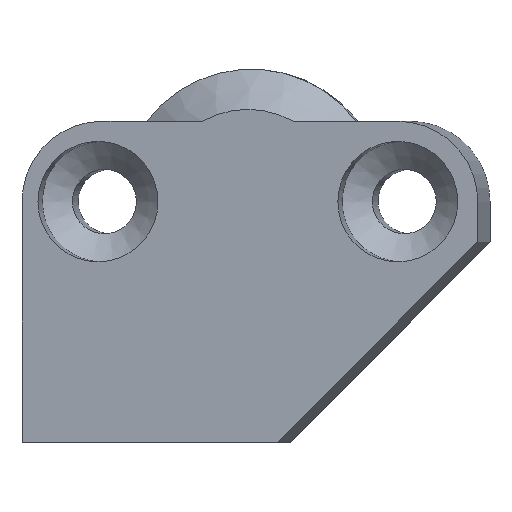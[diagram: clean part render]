
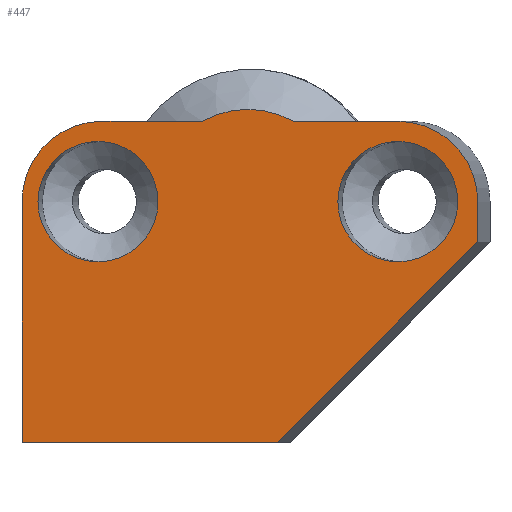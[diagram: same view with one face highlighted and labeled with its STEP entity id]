
A CAD part, left-side view. The second image highlights one B-rep face of the part: STEP entity #447.
In plain terms, the highlighted planar face has unit normal (-0.996, 0.087, 0).
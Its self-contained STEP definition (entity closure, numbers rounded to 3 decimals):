
#38=FACE_BOUND('',#81,.T.);
#39=FACE_BOUND('',#82,.T.);
#44=PLANE('',#489);
#54=FACE_OUTER_BOUND('',#80,.T.);
#80=EDGE_LOOP('',(#311,#312,#313,#314,#315,#316,#317,#318,#319));
#81=EDGE_LOOP('',(#320));
#82=EDGE_LOOP('',(#321));
#113=LINE('',#673,#143);
#114=LINE('',#676,#144);
#115=LINE('',#678,#145);
#116=LINE('',#680,#146);
#117=LINE('',#684,#147);
#118=LINE('',#687,#148);
#143=VECTOR('',#546,10.);
#144=VECTOR('',#549,10.);
#145=VECTOR('',#550,10.);
#146=VECTOR('',#551,10.);
#147=VECTOR('',#554,10.);
#148=VECTOR('',#557,10.);
#169=CIRCLE('',#486,4.);
#171=CIRCLE('',#490,4.);
#172=CIRCLE('',#491,4.6);
#173=CIRCLE('',#492,3.);
#174=CIRCLE('',#493,3.);
#192=VERTEX_POINT('',#660);
#193=VERTEX_POINT('',#661);
#197=VERTEX_POINT('',#671);
#198=VERTEX_POINT('',#675);
#199=VERTEX_POINT('',#677);
#200=VERTEX_POINT('',#679);
#201=VERTEX_POINT('',#681);
#202=VERTEX_POINT('',#683);
#203=VERTEX_POINT('',#685);
#204=VERTEX_POINT('',#688);
#205=VERTEX_POINT('',#690);
#236=EDGE_CURVE('',#192,#193,#169,.T.);
#242=EDGE_CURVE('',#197,#193,#113,.T.);
#243=EDGE_CURVE('',#198,#197,#114,.T.);
#244=EDGE_CURVE('',#198,#199,#115,.T.);
#245=EDGE_CURVE('',#200,#199,#116,.T.);
#246=EDGE_CURVE('',#201,#200,#171,.F.);
#247=EDGE_CURVE('',#202,#201,#117,.F.);
#248=EDGE_CURVE('',#202,#203,#172,.T.);
#249=EDGE_CURVE('',#192,#203,#118,.T.);
#250=EDGE_CURVE('',#204,#204,#173,.T.);
#251=EDGE_CURVE('',#205,#205,#174,.T.);
#311=ORIENTED_EDGE('',*,*,#236,.T.);
#312=ORIENTED_EDGE('',*,*,#242,.F.);
#313=ORIENTED_EDGE('',*,*,#243,.F.);
#314=ORIENTED_EDGE('',*,*,#244,.T.);
#315=ORIENTED_EDGE('',*,*,#245,.F.);
#316=ORIENTED_EDGE('',*,*,#246,.F.);
#317=ORIENTED_EDGE('',*,*,#247,.F.);
#318=ORIENTED_EDGE('',*,*,#248,.T.);
#319=ORIENTED_EDGE('',*,*,#249,.F.);
#320=ORIENTED_EDGE('',*,*,#250,.F.);
#321=ORIENTED_EDGE('',*,*,#251,.F.);
#447=ADVANCED_FACE('',(#54,#38,#39),#44,.T.);
#486=AXIS2_PLACEMENT_3D('',#662,#536,#537);
#489=AXIS2_PLACEMENT_3D('',#674,#547,#548);
#490=AXIS2_PLACEMENT_3D('',#682,#552,#553);
#491=AXIS2_PLACEMENT_3D('',#686,#555,#556);
#492=AXIS2_PLACEMENT_3D('',#689,#558,#559);
#493=AXIS2_PLACEMENT_3D('',#691,#560,#561);
#536=DIRECTION('center_axis',(-0.996,0.087,0.));
#537=DIRECTION('ref_axis',(0.062,0.704,0.707));
#546=DIRECTION('',(0.,0.,1.));
#547=DIRECTION('center_axis',(-0.996,0.087,0.));
#548=DIRECTION('ref_axis',(0.087,0.996,0.));
#549=DIRECTION('',(0.087,0.996,0.));
#550=DIRECTION('',(-0.062,-0.704,0.707));
#551=DIRECTION('',(0.,0.,-1.));
#552=DIRECTION('center_axis',(-0.996,0.087,0.));
#553=DIRECTION('ref_axis',(0.,0.,
-1.));
#554=DIRECTION('',(0.087,0.996,0.));
#555=DIRECTION('center_axis',(-0.996,0.087,0.));
#556=DIRECTION('ref_axis',(-0.087,-0.996,0.));
#557=DIRECTION('',(-0.087,-0.996,0.));
#558=DIRECTION('center_axis',(-0.996,0.087,0.));
#559=DIRECTION('ref_axis',(-0.087,-0.996,0.));
#560=DIRECTION('center_axis',(-0.996,0.087,0.));
#561=DIRECTION('ref_axis',(-0.087,-0.996,0.));
#660=CARTESIAN_POINT('',(-8.145,7.481,4.));
#661=CARTESIAN_POINT('',(-7.796,11.466,0.));
#662=CARTESIAN_POINT('Origin',(-8.145,7.481,0.));
#671=CARTESIAN_POINT('',(-7.796,11.466,-12.));
#673=CARTESIAN_POINT('',(-7.796,11.466,-4.));
#674=CARTESIAN_POINT('Origin',(-9.628,-9.468,0.));
#675=CARTESIAN_POINT('',(-8.912,-1.286,-12.));
#676=CARTESIAN_POINT('',(-9.204,-4.63,-12.));
#677=CARTESIAN_POINT('',(-9.783,-11.248,-2.));
#678=CARTESIAN_POINT('',(-9.57,-8.81,-4.446));
#679=CARTESIAN_POINT('',(-9.783,-11.248,0.));
#680=CARTESIAN_POINT('',(-9.783,-11.248,-8.));
#681=CARTESIAN_POINT('',(-9.435,-7.263,4.));
#682=CARTESIAN_POINT('Origin',(-9.435,-7.263,0.));
#683=CARTESIAN_POINT('',(-8.979,-2.054,4.));
#684=CARTESIAN_POINT('',(-8.747,0.6,4.));
#685=CARTESIAN_POINT('',(-8.583,2.472,4.));
#686=CARTESIAN_POINT('Origin',(-8.781,0.209,0.));
#687=CARTESIAN_POINT('',(-8.921,-1.392,4.));
#688=CARTESIAN_POINT('',(-7.866,10.669,0.));
#689=CARTESIAN_POINT('Origin',(-8.127,7.68,0.));
#690=CARTESIAN_POINT('',(-9.173,-4.274,0.));
#691=CARTESIAN_POINT('Origin',(-9.435,-7.263,0.));
